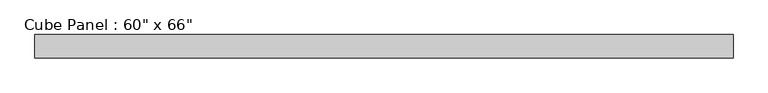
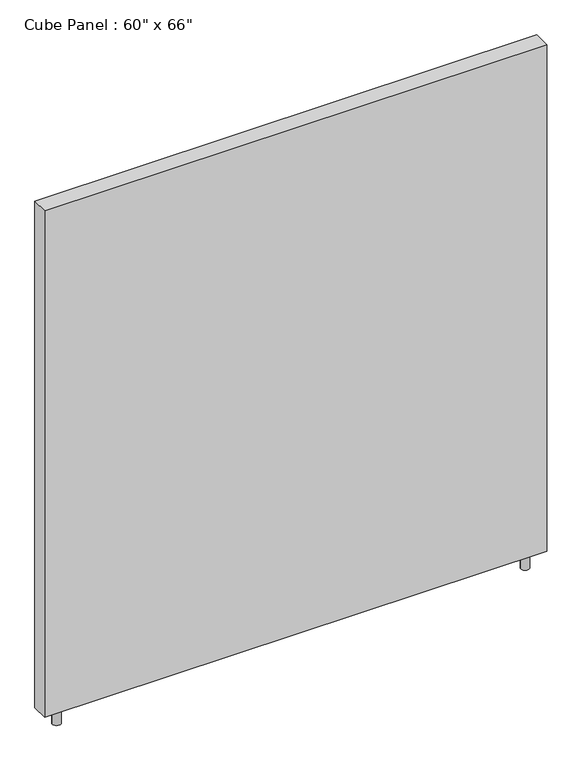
"""IFC4 building model written with IfcOpenShell, lengths in millimetres: furniture geometry."""

from ifc_helpers import new_model, si_unit, point, frame, frame_2d, origin, origin_with_axes, place, context, project, spatial, polyline, circle_curve, trimmed, segment, composite_curve, outline, extrude, source, transform, mapped, element, save


def furniture_00cef8f1(model_context):
    return source(origin(), model_context, "Body", "SweptSolid", [
        extrude(outline(composite_curve([segment(trimmed(circle_curve(frame_2d((-711.2, 0.0)), 12.7), [point((-723.9, 0.0))], [point((-698.5, 0.0))], False, "CARTESIAN"), True, "CONTINUOUS"), segment(trimmed(circle_curve(frame_2d((-711.2, 0.0)), 12.7), [point((-698.5, 0.0))], [point((-723.9, 0.0))], False, "CARTESIAN"), True, "CONTINUOUS")], self_intersect=False)), origin_with_axes(), (0.0, 0.0, 1.0), 50.8),
        extrude(outline(composite_curve([segment(trimmed(circle_curve(frame_2d((711.2, 0.0)), 12.7), [point((698.5, 0.0))], [point((723.9, 0.0))], False, "CARTESIAN"), True, "CONTINUOUS"), segment(trimmed(circle_curve(frame_2d((711.2, 0.0)), 12.7), [point((723.9, 0.0))], [point((698.5, 0.0))], False, "CARTESIAN"), True, "CONTINUOUS")], self_intersect=False)), origin_with_axes(), (0.0, 0.0, 1.0), 50.8),
        extrude(outline(polyline([(762.0, 25.4), (762.0, -25.4), (-762.0, -25.4), (-762.0, 25.4), (762.0, 25.4)])), frame((0.0, 0.0, 50.8), z_axis=(0.0, 0.0, 1.0), x_axis=(1.0, 0.0, 0.0)), (0.0, 0.0, 1.0), 1625.6),
    ])


if __name__ == "__main__":
    model = new_model("IFC4")
    model_context = context("Model", 3, world=origin())
    ifc_project = project(units=[si_unit("LENGTHUNIT", "METRE", prefix="MILLI")], contexts=[model_context])
    site = spatial("IfcSite", under=ifc_project)
    building = spatial("IfcBuilding", under=site)
    placement = place(None, origin())
    furniture_shape = furniture_00cef8f1(model_context)
    element("IfcFurniture", 1, ObjectType="Cube Panel : 60\" x 66\"", at=placement, inside=building, context=model_context, shape_type="MappedRepresentation", body=[
        mapped(furniture_shape, transform((0.0, 0.0, 0.0), x_axis=(1.0, 0.0, 0.0), y_axis=(0.0, 1.0, 0.0), z_axis=(0.0, 0.0, 1.0))),
    ])
    save(model, "model.ifc")
